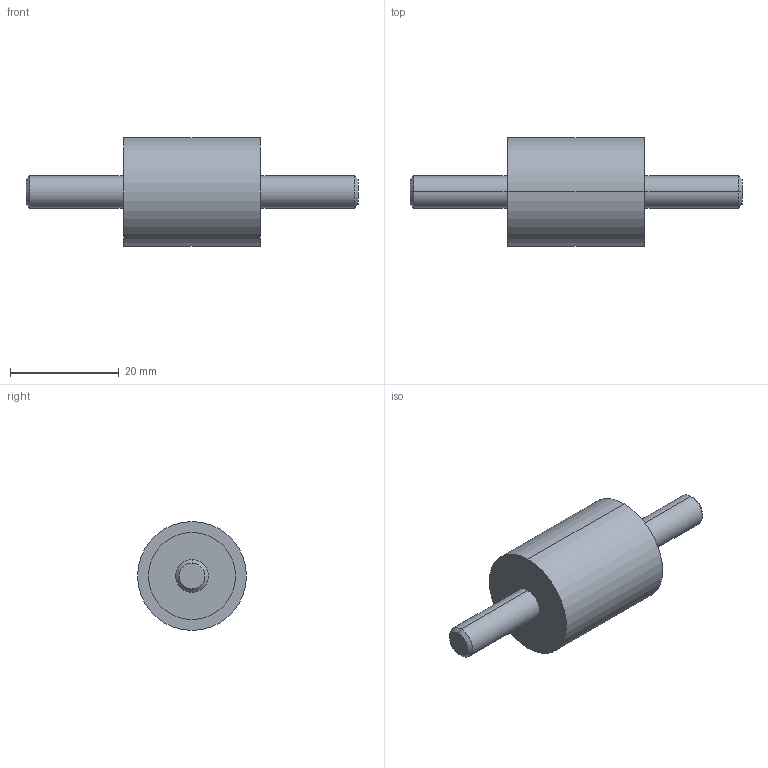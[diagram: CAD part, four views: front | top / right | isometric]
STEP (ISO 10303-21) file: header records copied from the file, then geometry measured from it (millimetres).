
FILE_DESCRIPTION (( 'STEP AP214' ), '1' );
FILE_NAME ('351-20-25-M6-SS-40.step', '2025-07-23T10:00:58', ( '' ), ( '' ), 'SwSTEP 2.0', 'SolidWorks 2022', '' );
FILE_SCHEMA (( 'AUTOMOTIVE_DESIGN' ));
Length unit declared in the file: millimetre
Products named in the file (1): 351-20-25-M6-SS-40
Bounding box: 61 x 20 x 20 mm (x, y, z)
Volume: 8861 mm3; surface area: 2863.6 mm2
Topology: 1 solids, 1 shells, 20 faces, 38 edges, 24 vertices
Faces by surface type: cylinder 10, plane 6, cone 4
Entity records: 636 total; most frequent: DIRECTION 104, CARTESIAN_POINT 83, ORIENTED_EDGE 76, AXIS2_PLACEMENT_3D 45, EDGE_CURVE 38, EDGE_LOOP 24, VERTEX_POINT 24, CIRCLE 24
